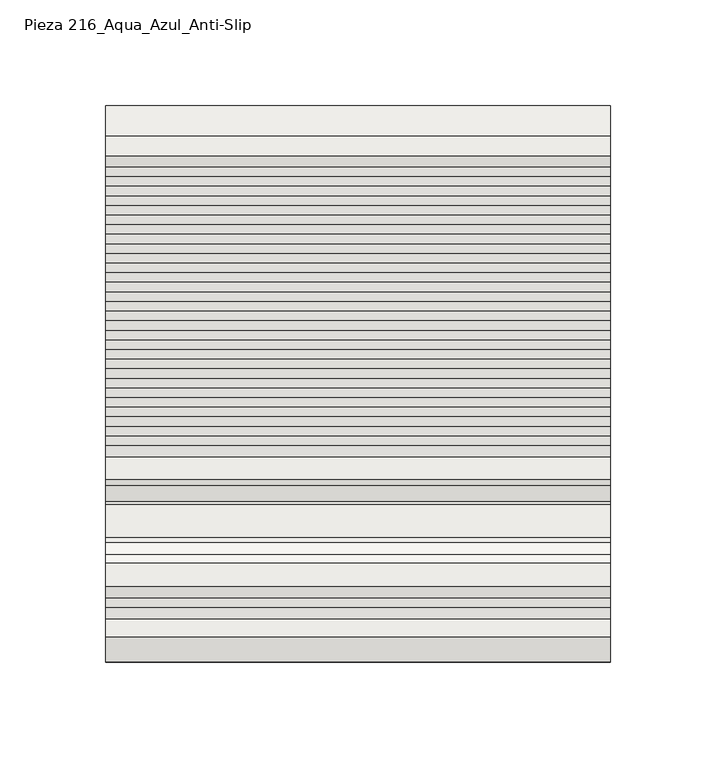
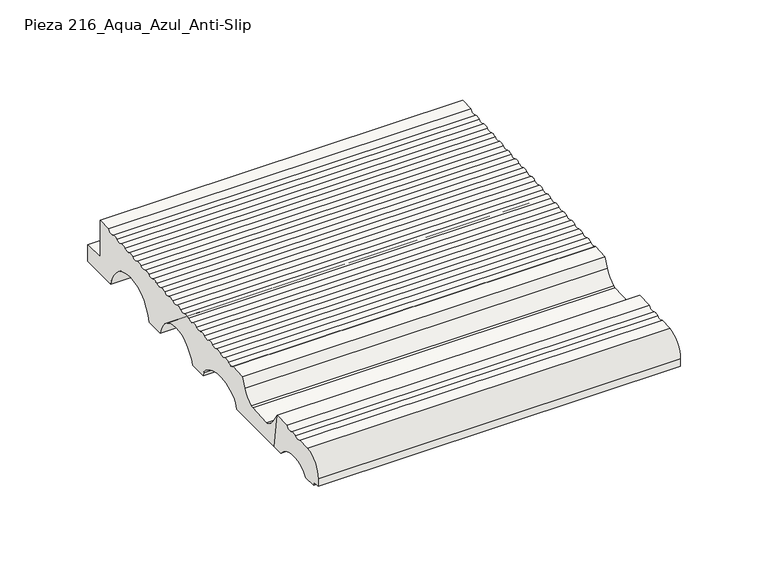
"""IFC4 building model written with IfcOpenShell, lengths in millimetres: slab geometry, ROSA GRES_216 : Pieza 216_Aqua_Azul_Anti-Slip."""

from ifc_helpers import new_model, si_unit, point, frame, frame_2d, origin, place, context, project, spatial, polyline, circle_curve, trimmed, segment, composite_curve, outline, extrude, source, transform, mapped, element, save


def pieza_216_aqua_azul_anti_slip_7a651725(model_context):
    return source(origin(), model_context, "Body", "SweptSolid", [
        extrude(outline(composite_curve([segment(polyline([(50.2779274, 190.3313491), (42.6585641, 190.3344144)]), True, "CONTINUOUS"), segment(trimmed(circle_curve(frame_2d((28.4466156, 179.1524611)), 18.0835716), [point((42.6585641, 190.3344144))], [point((14.2436688, 190.3458459))], True, "CARTESIAN"), True, "CONTINUOUS"), segment(polyline([(14.2436688, 190.3458459), (5.4229579, 190.3493946), (5.1617818, 192.8343188), (0.2589396, 192.8448483), (0.270618, 198.2826277)]), True, "CONTINUOUS"), segment(trimmed(circle_curve(frame_2d((13.9356113, 198.4086002)), 13.6655739), [point((0.270618, 198.2826277))], [point((12.4148911, 211.9892969))], False, "CARTESIAN"), True, "CONTINUOUS"), segment(polyline([(12.4148911, 211.9892969), (20.9679225, 212.5430894)]), True, "CONTINUOUS"), segment(trimmed(circle_curve(frame_2d((23.8495454, 215.5123064)), 4.1376321), [point((20.9679225, 212.5430894))], [point((26.349741, 212.2154865))], True, "CARTESIAN"), True, "CONTINUOUS"), segment(trimmed(circle_curve(frame_2d((28.8499366, 208.9186667)), 4.1376321), [point((26.349741, 212.2154865))], [point((30.8950387, 212.5155483))], False, "CARTESIAN"), True, "CONTINUOUS"), segment(trimmed(circle_curve(frame_2d((32.9401407, 216.1124298)), 4.1376321), [point((30.8950387, 212.5155483))], [point((36.1886491, 213.5497765))], True, "CARTESIAN"), True, "CONTINUOUS"), segment(polyline([(36.1886491, 213.5497765), (47.02226, 214.2649666), (50.2779274, 190.3313491)]), True, "CONTINUOUS")], self_intersect=False)), frame((0.0, 0.0, 0.0), z_axis=(1.0, 0.0, 0.0), x_axis=(0.0, 1.0, 0.0)), (0.0, 0.0, 1.0), 239.0),
        extrude(outline(composite_curve([segment(polyline([(263.2751802, 190.245659), (236.9233748, 190.2562605)]), True, "CONTINUOUS"), segment(trimmed(circle_curve(frame_2d((215.0085062, 186.5344061)), 22.2286676), [point((236.9233748, 190.2562605))], [point((193.0966393, 190.2738923))], True, "CARTESIAN"), True, "CONTINUOUS"), segment(polyline([(193.0966393, 190.2738923), (180.7270569, 190.2788686)]), True, "CONTINUOUS"), segment(trimmed(circle_curve(frame_2d((162.221775, 186.3703221)), 18.9135452), [point((180.7270569, 190.2788686))], [point((143.719644, 190.2937569))], True, "CARTESIAN"), True, "CONTINUOUS"), segment(polyline([(143.719644, 190.2937569), (131.5147991, 190.298667), (130.9555618, 192.6836396)]), True, "CONTINUOUS"), segment(trimmed(circle_curve(frame_2d((125.6336801, 191.4357448)), 5.4662296), [point((130.9555618, 192.6836396))], [point((129.2498705, 195.5348707))], True, "CARTESIAN"), True, "CONTINUOUS"), segment(trimmed(circle_curve(frame_2d((112.2317578, 176.2440208)), 25.7245612), [point((129.2498705, 195.5348707))], [point((96.2307788, 196.386556))], True, "CARTESIAN"), True, "CONTINUOUS"), segment(trimmed(circle_curve(frame_2d((99.6308378, 192.1064549)), 5.4662296), [point((96.2307788, 196.386556))], [point((94.4638044, 193.8901119))], True, "CARTESIAN"), True, "CONTINUOUS"), segment(polyline([(94.4638044, 193.8901119), (93.2293566, 190.3140695), (50.2802779, 190.3140695), (47.02226, 214.2649666), (51.3482048, 207.3914339)]), True, "CONTINUOUS"), segment(trimmed(circle_curve(frame_2d((63.7751184, 214.6556047)), 14.394317), [point((51.3482048, 207.3914339))], [point((57.0972438, 201.904042))], True, "CARTESIAN"), True, "CONTINUOUS"), segment(trimmed(circle_curve(frame_2d((59.2105081, 205.9393712)), 4.5551913), [point((57.0972438, 201.904042))], [point((59.5105698, 201.3940735))], True, "CARTESIAN"), True, "CONTINUOUS"), segment(polyline([(59.5105698, 201.3940735), (75.0526722, 202.4200987)]), True, "CONTINUOUS"), segment(trimmed(circle_curve(frame_2d((74.7526105, 206.9653964)), 4.5551913), [point((75.0526722, 202.4200987))], [point((76.5779698, 202.7919289))], True, "CARTESIAN"), True, "CONTINUOUS"), segment(trimmed(circle_curve(frame_2d((70.8098694, 215.980006)), 14.394317), [point((76.5779698, 202.7919289))], [point((84.083877, 210.4125036))], True, "CARTESIAN"), True, "CONTINUOUS"), segment(polyline([(84.083877, 210.4125036), (86.7854822, 216.8536554), (97.5473566, 217.5715259)]), True, "CONTINUOUS"), segment(trimmed(circle_curve(frame_2d((100.4299632, 220.5397878)), 4.1376321), [point((97.5473566, 217.5715259))], [point((102.9301588, 217.2429679))], True, "CARTESIAN"), True, "CONTINUOUS"), segment(trimmed(circle_curve(frame_2d((105.4303545, 213.9461481)), 4.1376321), [point((102.9301588, 217.2429679))], [point((107.4754565, 217.5430296))], False, "CARTESIAN"), True, "CONTINUOUS"), segment(trimmed(circle_curve(frame_2d((109.5205585, 221.1399112)), 4.1376321), [point((107.4754565, 217.5430296))], [point((112.0207542, 217.8430914))], True, "CARTESIAN"), True, "CONTINUOUS"), segment(trimmed(circle_curve(frame_2d((114.5209498, 214.5462715)), 4.1376321), [point((112.0207542, 217.8430914))], [point((116.5660518, 218.1431531))], False, "CARTESIAN"), True, "CONTINUOUS"), segment(trimmed(circle_curve(frame_2d((118.6111539, 221.7400347)), 4.1376321), [point((116.5660518, 218.1431531))], [point((121.1113495, 218.4432148))], True, "CARTESIAN"), True, "CONTINUOUS"), segment(trimmed(circle_curve(frame_2d((123.6115451, 215.1463949)), 4.1376321), [point((121.1113495, 218.4432148))], [point((125.6566472, 218.7432765))], False, "CARTESIAN"), True, "CONTINUOUS"), segment(trimmed(circle_curve(frame_2d((127.7017492, 222.3401581)), 4.1376321), [point((125.6566472, 218.7432765))], [point((130.2019448, 219.0433382))], True, "CARTESIAN"), True, "CONTINUOUS"), segment(trimmed(circle_curve(frame_2d((132.7021405, 215.7465184)), 4.1376321), [point((130.2019448, 219.0433382))], [point((134.7472425, 219.3433999))], False, "CARTESIAN"), True, "CONTINUOUS"), segment(trimmed(circle_curve(frame_2d((136.7923445, 222.9402815)), 4.1376321), [point((134.7472425, 219.3433999))], [point((139.2925402, 219.6434617))], True, "CARTESIAN"), True, "CONTINUOUS"), segment(trimmed(circle_curve(frame_2d((141.7927358, 216.3466418)), 4.1376321), [point((139.2925402, 219.6434617))], [point((143.8378378, 219.9435234))], False, "CARTESIAN"), True, "CONTINUOUS"), segment(trimmed(circle_curve(frame_2d((145.8829399, 223.540405)), 4.1376321), [point((143.8378378, 219.9435234))], [point((148.3831355, 220.2435851))], True, "CARTESIAN"), True, "CONTINUOUS"), segment(trimmed(circle_curve(frame_2d((150.8833311, 216.9467652)), 4.1376321), [point((148.3831355, 220.2435851))], [point((152.9284332, 220.5436468))], False, "CARTESIAN"), True, "CONTINUOUS"), segment(trimmed(circle_curve(frame_2d((154.9735352, 224.1405284)), 4.1376321), [point((152.9284332, 220.5436468))], [point((157.4737308, 220.8437085))], True, "CARTESIAN"), True, "CONTINUOUS"), segment(trimmed(circle_curve(frame_2d((159.9739265, 217.5468887)), 4.1376321), [point((157.4737308, 220.8437085))], [point((162.0190285, 221.1437703))], False, "CARTESIAN"), True, "CONTINUOUS"), segment(trimmed(circle_curve(frame_2d((164.0641305, 224.7406518)), 4.1376321), [point((162.0190285, 221.1437703))], [point((166.5643262, 221.443832))], True, "CARTESIAN"), True, "CONTINUOUS"), segment(trimmed(circle_curve(frame_2d((169.0645218, 218.1470121)), 4.1376321), [point((166.5643262, 221.443832))], [point((171.1096238, 221.7438937))], False, "CARTESIAN"), True, "CONTINUOUS"), segment(trimmed(circle_curve(frame_2d((173.1547259, 225.3407753)), 4.1376321), [point((171.1096238, 221.7438937))], [point((175.6549215, 222.0439554))], True, "CARTESIAN"), True, "CONTINUOUS"), segment(trimmed(circle_curve(frame_2d((178.1551171, 218.7471355)), 4.1376321), [point((175.6549215, 222.0439554))], [point((180.2002192, 222.3440171))], False, "CARTESIAN"), True, "CONTINUOUS"), segment(trimmed(circle_curve(frame_2d((182.2453212, 225.9408987)), 4.1376321), [point((180.2002192, 222.3440171))], [point((184.7455168, 222.6440788))], True, "CARTESIAN"), True, "CONTINUOUS"), segment(trimmed(circle_curve(frame_2d((187.2457125, 219.347259)), 4.1376321), [point((184.7455168, 222.6440788))], [point((189.2908145, 222.9441406))], False, "CARTESIAN"), True, "CONTINUOUS"), segment(trimmed(circle_curve(frame_2d((191.3359165, 226.5410222)), 4.1376321), [point((189.2908145, 222.9441406))], [point((193.8361122, 223.2442023))], True, "CARTESIAN"), True, "CONTINUOUS"), segment(trimmed(circle_curve(frame_2d((196.3363078, 219.9473824)), 4.1376321), [point((193.8361122, 223.2442023))], [point((198.3814098, 223.544264))], False, "CARTESIAN"), True, "CONTINUOUS"), segment(trimmed(circle_curve(frame_2d((200.4265119, 227.1411456)), 4.1376321), [point((198.3814098, 223.544264))], [point((202.9267075, 223.8443257))], True, "CARTESIAN"), True, "CONTINUOUS"), segment(trimmed(circle_curve(frame_2d((205.4269031, 220.5475058)), 4.1376321), [point((202.9267075, 223.8443257))], [point((207.4720052, 224.1443874))], False, "CARTESIAN"), True, "CONTINUOUS"), segment(trimmed(circle_curve(frame_2d((209.5171072, 227.741269)), 4.1376321), [point((207.4720052, 224.1443874))], [point((212.0173028, 224.4444492))], True, "CARTESIAN"), True, "CONTINUOUS"), segment(trimmed(circle_curve(frame_2d((214.5174985, 221.1476293)), 4.1376321), [point((212.0173028, 224.4444492))], [point((216.5626005, 224.7445109))], False, "CARTESIAN"), True, "CONTINUOUS"), segment(trimmed(circle_curve(frame_2d((218.6077025, 228.3413925)), 4.1376321), [point((216.5626005, 224.7445109))], [point((221.1078982, 225.0445726))], True, "CARTESIAN"), True, "CONTINUOUS"), segment(trimmed(circle_curve(frame_2d((223.6080938, 221.7477527)), 4.1376321), [point((221.1078982, 225.0445726))], [point((225.6531958, 225.3446343))], False, "CARTESIAN"), True, "CONTINUOUS"), segment(trimmed(circle_curve(frame_2d((227.6982979, 228.9415159)), 4.1376321), [point((225.6531958, 225.3446343))], [point((230.1984935, 225.644696))], True, "CARTESIAN"), True, "CONTINUOUS"), segment(trimmed(circle_curve(frame_2d((232.6986891, 222.3478762)), 4.1376321), [point((230.1984935, 225.644696))], [point((234.7437912, 225.9447577))], False, "CARTESIAN"), True, "CONTINUOUS"), segment(trimmed(circle_curve(frame_2d((236.7888932, 229.5416393)), 4.1376321), [point((234.7437912, 225.9447577))], [point((240.0374016, 226.9789859))], True, "CARTESIAN"), True, "CONTINUOUS"), segment(polyline([(240.0374016, 226.9789859), (249.2078603, 227.5843816), (249.1610944, 202.0976939), (263.622227, 201.6579314), (263.2751802, 190.245659)]), True, "CONTINUOUS")], self_intersect=False)), frame((0.0, 0.0, 0.0), z_axis=(1.0, 0.0, 0.0), x_axis=(0.0, 1.0, 0.0)), (0.0, 0.0, 1.0), 239.0),
    ])


if __name__ == "__main__":
    model = new_model("IFC4")
    model_context = context("Model", 3, world=origin())
    ifc_project = project(units=[si_unit("LENGTHUNIT", "METRE", prefix="MILLI")], contexts=[model_context])
    site = spatial("IfcSite", under=ifc_project)
    building = spatial("IfcBuilding", under=site)
    placement = place(None, origin())
    pieza_216_aqua_azul_anti_slip_shape = pieza_216_aqua_azul_anti_slip_7a651725(model_context)
    element("IfcSlab", 1, ObjectType="ROSA GRES_216 : Pieza 216_Aqua_Azul_Anti-Slip", at=placement, inside=building, context=model_context, shape_type="MappedRepresentation", body=[
        mapped(pieza_216_aqua_azul_anti_slip_shape, transform((0.0, 0.0, 0.0), x_axis=(1.0, 0.0, 0.0), y_axis=(0.0, 1.0, 0.0), z_axis=(0.0, 0.0, 1.0))),
    ])
    save(model, "model.ifc")
